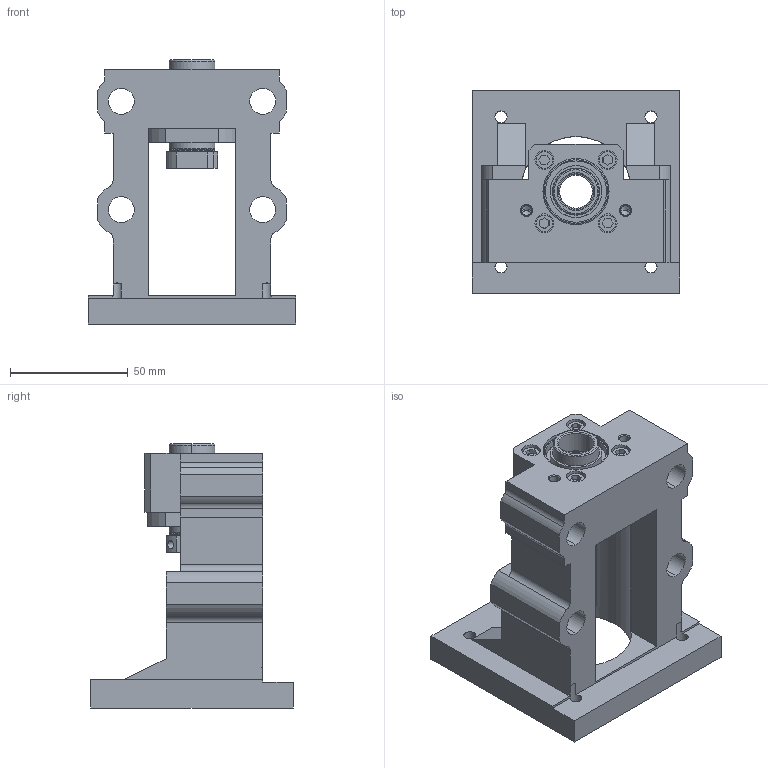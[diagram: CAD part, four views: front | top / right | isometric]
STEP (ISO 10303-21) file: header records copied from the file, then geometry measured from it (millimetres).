
FILE_DESCRIPTION (( 'STEP AP203' ), '1' );
FILE_NAME ('MBCE15-E.STEP', '2023-01-12T03:56:51', ( '' ), ( '' ), 'SwSTEP 2.0', 'SolidWorks 2018', '' );
FILE_SCHEMA (( 'CONFIG_CONTROL_DESIGN' ));
Length unit declared in the file: millimetre
Products named in the file (12): BK系列密封圈_BK15密封圈; MBCE15-E_網路下載圖; M15鎖固螺帽_M15; 7002外圈; 螺絲_M4L25; 7002保持器; EAFK15; 7002內圈; MBCE15-E; 7002鋼珠4.7625; 7002; MBC15
Assembly tree (28 placements, depth 3):
  MBCE15-E
    MBCE15-E_網路下載圖
    7002  x2
      7002外圈
      7002保持器
      7002內圈
      7002鋼珠4.7625
    MBC15
    BK系列密封圈_BK15密封圈  x2
    M15鎖固螺帽_M15
    螺絲_M4L25  x4
    EAFK15  x2
Bounding box: 88 x 86 x 112 mm (x, y, z)
Volume: 198486.3 mm3; surface area: 78333.7 mm2
Topology: 41 solids, 42 shells, 564 faces, 1409 edges, 890 vertices
Faces by surface type: cylinder 233, plane 145, torus 96, sphere 48, cone 42
Entity records: 14257 total; most frequent: CARTESIAN_POINT 3634, DIRECTION 1995, ORIENTED_EDGE 1758, EDGE_CURVE 879, AXIS2_PLACEMENT_3D 797, VERTEX_POINT 554, EDGE_LOOP 449, CIRCLE 410
